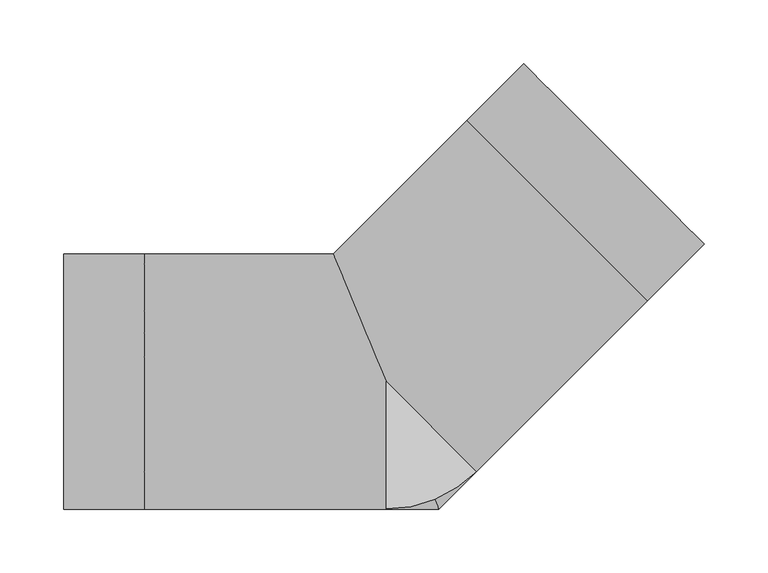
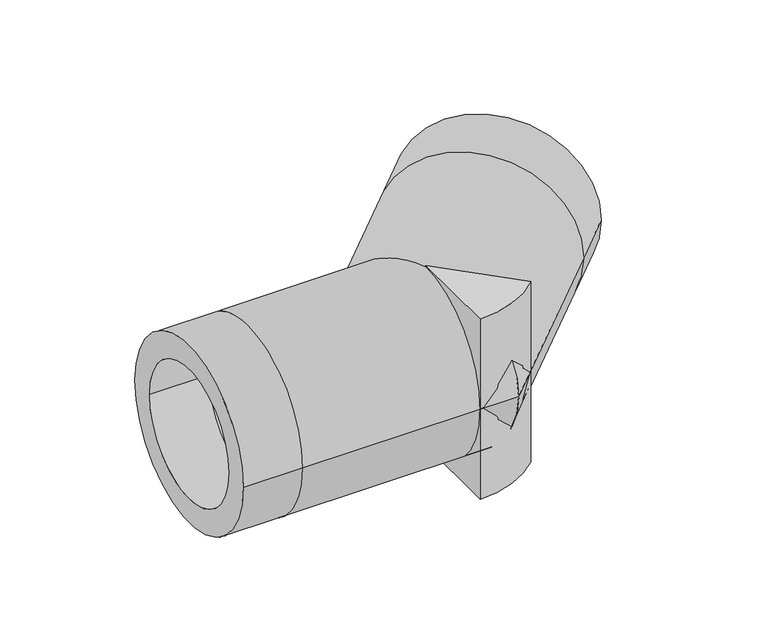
"""IFC4 building model written with IfcOpenShell, lengths in millimetres: pipe fitting geometry, Aquatherm - Elbow Green BW Segmented : SDR 7.4 FASER."""

from ifc_helpers import new_model, si_unit, point, frame, origin, origin_with_axes, origin_2d, place, context, project, spatial, polyline, circle_curve, ellipse_curve, trimmed, segment, composite_curve, outline, extrude, source, transform, mapped, element, save
from ifc_brep_helpers import plane_surface, cylinder_surface, revolved_surface, advanced_brep


def pipe_fitting_7e981c8b(model_context):
    return source(origin(), model_context, "Body", "SolidModel", [
        extrude(outline(composite_curve([segment(polyline([(0.0, -99.949), (0.0, 0.0), (70.6746157, -70.6746157)]), True, "CONTINUOUS"), segment(trimmed(circle_curve(origin_2d(), 99.949), [point((70.6746157, -70.6746157))], [point((0.0, -99.949))], False, "CARTESIAN"), True, "CONTINUOUS")], self_intersect=False)), frame((0.0, 0.0, -101.6), z_axis=(0.0, 0.0, 1.0), x_axis=(1.0, 0.0, 0.0)), (0.0, 0.0, 1.0), 101.6),
        extrude(outline(composite_curve([segment(trimmed(circle_curve(origin_2d(), 99.949), [point((70.6746157, -70.6746157))], [point((0.0, -99.949))], False, "CARTESIAN"), True, "CONTINUOUS"), segment(polyline([(0.0, -99.949), (0.0, 0.0), (70.6746157, -70.6746157)]), True, "CONTINUOUS")], self_intersect=False)), origin_with_axes(), (0.0, 0.0, 1.0), 101.6),
        advanced_brep(
        [(-252.476, -99.949, 0.0), (-252.476, 99.949, 0.0), (-252.476, -72.9300517, 0.0), (-252.476, 72.9300517, 0.0), (249.2021074, 107.852876, 0.0), (107.852876, 249.2021074, 0.0), (230.0968258, 126.9581575, 0.0), (126.9581575, 230.0968258, 0.0), (-189.357, -99.949, 0.0), (-189.357, 99.949, 0.0), (-189.357, -72.9300517, 0.0), (-189.357, 72.9300517, 0.0), (41.4002313, -99.949, 0.0), (-41.4002313, 99.949, 0.0), (30.2086165, -72.9300517, 0.0), (-30.2086165, 72.9300517, 0.0), (204.5702344, 63.2210031, 0.0), (63.2210031, 204.5702344, 0.0), (185.4649529, 82.3262846, 0.0), (82.3262846, 185.4649529, 0.0)],
        [
            (0, 1, circle_curve(frame((-252.476, 0.0, 0.0), z_axis=(-1.0, 0.0, 0.0), x_axis=(0.0, 1.0, 0.0)), 99.949)),
            (1, 0, circle_curve(frame((-252.476, 0.0, 0.0), z_axis=(-1.0, 0.0, 0.0), x_axis=(0.0, 1.0, 0.0)), 99.949)),
            (2, 3, circle_curve(frame((-252.476, 0.0, 0.0), z_axis=(1.0, 0.0, 0.0), x_axis=(0.0, 1.0, 0.0)), 72.9300517)),
            (3, 2, circle_curve(frame((-252.476, 0.0, 0.0), z_axis=(1.0, 0.0, 0.0), x_axis=(0.0, 1.0, 0.0)), 72.9300517)),
            (4, 5, circle_curve(frame((178.5274917, 178.5274917, 0.0), z_axis=(0.7071067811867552, 0.7071067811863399, 0.0), x_axis=(-0.70710678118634, 0.7071067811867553, 0.0)), 99.949)),
            (5, 4, circle_curve(frame((178.5274917, 178.5274917, 0.0), z_axis=(0.7071067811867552, 0.7071067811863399, 0.0), x_axis=(-0.70710678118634, 0.7071067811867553, 0.0)), 99.949)),
            (6, 7, circle_curve(frame((178.5274917, 178.5274917, 0.0), z_axis=(-0.7071067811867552, -0.7071067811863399, 0.0), x_axis=(-0.70710678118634, 0.7071067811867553, 0.0)), 72.9300517)),
            (7, 6, circle_curve(frame((178.5274917, 178.5274917, 0.0), z_axis=(-0.7071067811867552, -0.7071067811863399, 0.0), x_axis=(-0.70710678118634, 0.7071067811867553, 0.0)), 72.9300517)),
            (0, 8),
            (8, 9, circle_curve(frame((-189.357, 0.0, 0.0), z_axis=(-1.0, 0.0, 0.0), x_axis=(0.0, 1.0, 0.0)), 99.949)),
            (9, 1),
            (9, 8, circle_curve(frame((-189.357, 0.0, 0.0), z_axis=(-1.0, 0.0, 0.0), x_axis=(0.0, 1.0, 0.0)), 99.949)),
            (2, 10),
            (10, 11, circle_curve(frame((-189.357, 0.0, 0.0), z_axis=(1.0, 0.0, 0.0), x_axis=(0.0, 1.0, 0.0)), 72.9300517)),
            (11, 3),
            (11, 10, circle_curve(frame((-189.357, 0.0, 0.0), z_axis=(1.0, 0.0, 0.0), x_axis=(0.0, 1.0, 0.0)), 72.9300517)),
            (8, 12),
            (12, 13, ellipse_curve(frame((0.0, 0.0, 0.0), z_axis=(-0.9238795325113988, -0.38268343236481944, 0.0), x_axis=(-0.3826834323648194, 0.9238795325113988, 0.0)), 108.184018, 99.949)),
            (13, 9),
            (13, 12, ellipse_curve(frame((0.0, 0.0, 0.0), z_axis=(-0.9238795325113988, -0.38268343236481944, 0.0), x_axis=(-0.3826834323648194, 0.9238795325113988, 0.0)), 108.184018, 99.949)),
            (10, 14),
            (14, 15, ellipse_curve(frame((0.0, 0.0, 0.0), z_axis=(0.9238795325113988, 0.38268343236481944, 0.0), x_axis=(0.3826834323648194, -0.9238795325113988, 0.0)), 78.9389192, 72.9300517)),
            (15, 11),
            (15, 14, ellipse_curve(frame((0.0, 0.0, 0.0), z_axis=(0.9238795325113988, 0.38268343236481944, 0.0), x_axis=(0.3826834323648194, -0.9238795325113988, 0.0)), 78.9389192, 72.9300517)),
            (12, 16),
            (16, 17, circle_curve(frame((133.8956188, 133.8956188, 0.0), z_axis=(-0.7071067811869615, -0.7071067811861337, 0.0), x_axis=(-0.7071067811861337, 0.7071067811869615, 0.0)), 99.949)),
            (17, 13),
            (17, 16, circle_curve(frame((133.8956188, 133.8956188, 0.0), z_axis=(-0.7071067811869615, -0.7071067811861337, 0.0), x_axis=(-0.7071067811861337, 0.7071067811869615, 0.0)), 99.949)),
            (14, 18),
            (18, 19, circle_curve(frame((133.8956188, 133.8956188, 0.0), z_axis=(0.7071067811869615, 0.7071067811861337, 0.0), x_axis=(-0.7071067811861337, 0.7071067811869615, 0.0)), 72.9300517)),
            (19, 15),
            (19, 18, circle_curve(frame((133.8956188, 133.8956188, 0.0), z_axis=(0.7071067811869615, 0.7071067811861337, 0.0), x_axis=(-0.7071067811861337, 0.7071067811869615, 0.0)), 72.9300517)),
            (16, 4),
            (5, 17),
            (18, 6),
            (7, 19),
        ],
        [
            plane_surface(frame((-252.476, 0.0, 0.0), z_axis=(-1.0, 0.0, 0.0), x_axis=(0.0, 0.0, 1.0))),
            plane_surface(frame((178.5274917, 178.5274917, 0.0), z_axis=(0.7071067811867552, 0.7071067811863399, 0.0), x_axis=(0.0, 0.0, 1.0))),
            cylinder_surface(frame((-252.476, 0.0, 0.0), z_axis=(-1.0, 0.0, 0.0), x_axis=(0.0, 1.0, 0.0)), 99.949),
            revolved_surface(polyline([(-189.357, 72.9300517, 0.0), (-252.476, 72.9300517, 0.0)]), (-252.476, 0.0, 0.0), (1.0, 0.0, 0.0)),
            cylinder_surface(frame((-189.357, 0.0, 0.0), z_axis=(-1.0, 0.0, 0.0), x_axis=(0.0, 1.0, 0.0)), 99.949),
            revolved_surface(polyline([(30.208616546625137, 72.9300517, 0.0), (-189.357, 72.9300517, 0.0)]), (-189.357, 0.0, 0.0), (1.0, 0.0, 0.0)),
            cylinder_surface(frame((0.0, 0.0, 0.0), z_axis=(-0.7071067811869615, -0.7071067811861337, 0.0), x_axis=(-0.7071067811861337, 0.7071067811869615, 0.0)), 99.949),
            revolved_surface(polyline([(82.32628469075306, 185.46495290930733, 0.0), (-72.93005171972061, 30.20861649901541, 0.0)]), (0.0, 0.0, 0.0), (0.7071067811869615, 0.7071067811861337, 0.0)),
            cylinder_surface(frame((133.8956188, 133.8956188, 0.0), z_axis=(-0.7071067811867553, -0.70710678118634, 0.0), x_axis=(-0.70710678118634, 0.7071067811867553, 0.0)), 99.949),
            revolved_surface(polyline([(126.95815759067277, 230.09682580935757, 0.0), (82.32628464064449, 185.4649528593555, 0.0)]), (133.8956188, 133.8956188, 0.0), (0.7071067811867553, 0.70710678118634, 0.0)),
        ],
        [
            (0, [[1, 2], [3, 4]]),
            (1, [[5, 6], [7, 8]]),
            (2, [[-1, 9, 10, 11]]),
            (2, [[-2, -11, 12, -9]]),
            (3, [[-3, 13, 14, 15]]),
            (3, [[-4, -15, 16, -13]]),
            (4, [[-10, 17, 18, 19]]),
            (4, [[-12, -19, 20, -17]]),
            (5, [[-14, 21, 22, 23]]),
            (5, [[-16, -23, 24, -21]]),
            (6, [[-18, 25, 26, 27]]),
            (6, [[-20, -27, 28, -25]]),
            (7, [[-22, 29, 30, 31]]),
            (7, [[-24, -31, 32, -29]]),
            (8, [[-26, 33, -6, 34]]),
            (8, [[-28, -34, -5, -33]]),
            (9, [[-30, 35, -8, 36]]),
            (9, [[-32, -36, -7, -35]]),
        ],
    ),
    ])


if __name__ == "__main__":
    model = new_model("IFC4")
    model_context = context("Model", 3, world=origin())
    ifc_project = project(units=[si_unit("LENGTHUNIT", "METRE", prefix="MILLI")], contexts=[model_context])
    site = spatial("IfcSite", under=ifc_project)
    building = spatial("IfcBuilding", under=site)
    placement = place(None, origin())
    pipe_fitting_shape = pipe_fitting_7e981c8b(model_context)
    element("IfcPipeFitting", 1, ObjectType="Aquatherm - Elbow Green BW Segmented : SDR 7.4 FASER", at=placement, inside=building, context=model_context, shape_type="MappedRepresentation", body=[
        mapped(pipe_fitting_shape, transform((0.0, 0.0, 0.0), x_axis=(1.0, 0.0, 0.0), y_axis=(0.0, 1.0, 0.0), z_axis=(0.0, 0.0, 1.0))),
    ])
    save(model, "model.ifc")
